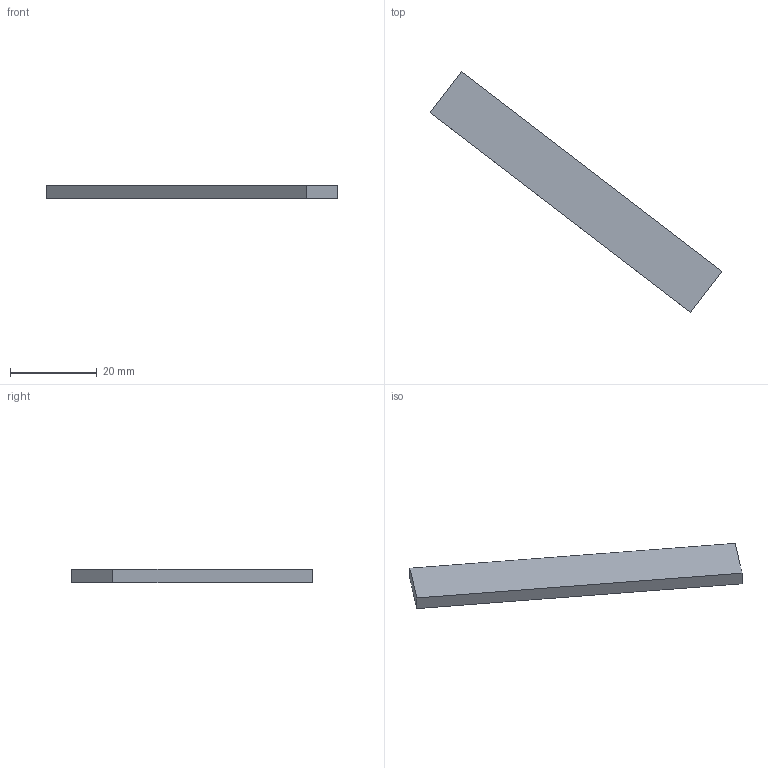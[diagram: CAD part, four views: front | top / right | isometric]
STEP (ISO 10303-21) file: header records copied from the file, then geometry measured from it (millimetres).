
FILE_DESCRIPTION(('Open CASCADE Model'),'2;1');
FILE_NAME('Open CASCADE Shape Model','2026-10-04T02:31:38',('Author'),( 'Open CASCADE'),'Open CASCADE STEP processor 8.0','Open CASCADE 8.0' ,'Unknown');
FILE_SCHEMA(('AUTOMOTIVE_DESIGN { 1 0 10303 214 1 1 1 1 }'));
Length unit declared in the file: millimetre
Products named in the file (1): Open CASCADE STEP translator 8.0 136
Bounding box: 67.3 x 55.52 x 3 mm (x, y, z)
Volume: 2721.8 mm3; surface area: 2340.1 mm2
Topology: 1 solids, 1 shells, 6 faces, 12 edges, 8 vertices
Faces by surface type: plane 6
Entity records: 322 total; most frequent: CARTESIAN_POINT 51, DIRECTION 50, LINE 36, VECTOR 36, ORIENTED_EDGE 24, PCURVE 24, DEFINITIONAL_REPRESENTATION 24, EDGE_CURVE 12
